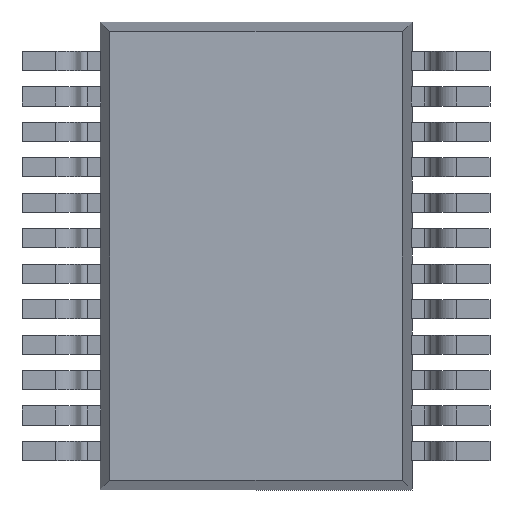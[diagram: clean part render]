
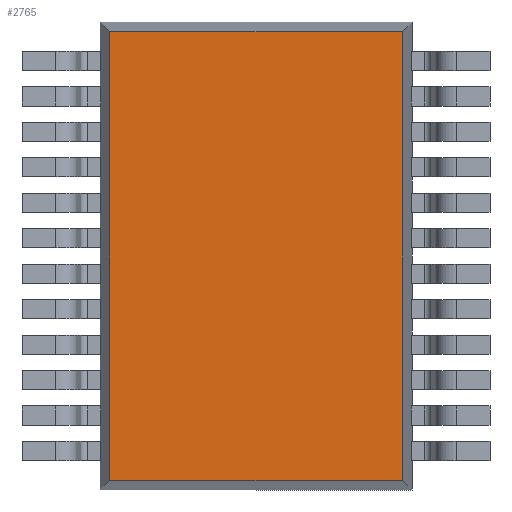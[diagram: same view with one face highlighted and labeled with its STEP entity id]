
A CAD part, front view. The second image highlights one B-rep face of the part: STEP entity #2765.
In plain terms, the highlighted planar face has unit normal (0, -1, 0).
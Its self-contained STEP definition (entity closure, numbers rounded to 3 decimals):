
#583 = EDGE_LOOP ( 'NONE', ( #14447, #14448, #14421, #14422 ) ) ;
#1364 = FACE_OUTER_BOUND ( 'NONE', #583, .T. ) ;
#2765 = ADVANCED_FACE ( 'NONE', ( #1364 ), #12085, .F. ) ;
#2966 = EDGE_CURVE ( 'NONE', #13904, #13893, #7588, .T. ) ;
#2967 = EDGE_CURVE ( 'NONE', #13890, #13891, #7587, .T. ) ;
#3324 = EDGE_CURVE ( 'NONE', #13893, #13890, #8157, .T. ) ;
#4475 = AXIS2_PLACEMENT_3D ( 'NONE', #12086, #12091, #12092 ) ;
#7291 = CARTESIAN_POINT ( 'NONE',  ( 2.2, 0.1, 3.159 ) ) ;
#7296 = CARTESIAN_POINT ( 'NONE',  ( 2.2, 0.1, -3.159 ) ) ;
#7298 = DIRECTION ( 'NONE',  ( 1., 0., 0. ) ) ;
#7299 = DIRECTION ( 'NONE',  ( -1., 0., 0. ) ) ;
#7587 = LINE ( 'NONE', #7291, #7593 ) ;
#7588 = LINE ( 'NONE', #7296, #7591 ) ;
#7591 = VECTOR ( 'NONE', #7298, 1000. ) ;
#7593 = VECTOR ( 'NONE', #7299, 1000. ) ;
#8157 = LINE ( 'NONE', #9045, #8165 ) ;
#8165 = VECTOR ( 'NONE', #9052, 1000. ) ;
#9045 = CARTESIAN_POINT ( 'NONE',  ( 2.059, 0.1, 3.3 ) ) ;
#9052 = DIRECTION ( 'NONE',  ( 0., 0., 1. ) ) ;
#9948 = CARTESIAN_POINT ( 'NONE',  ( 2.059, 0.1, 3.159 ) ) ;
#9949 = CARTESIAN_POINT ( 'NONE',  ( -2.059, 0.1, 3.159 ) ) ;
#9951 = CARTESIAN_POINT ( 'NONE',  ( 2.059, 0.1, -3.159 ) ) ;
#9962 = CARTESIAN_POINT ( 'NONE',  ( -2.059, 0.1, -3.159 ) ) ;
#10496 = CARTESIAN_POINT ( 'NONE',  ( -2.059, 0.1, 3.3 ) ) ;
#10497 = DIRECTION ( 'NONE',  ( 0., 0., -1. ) ) ;
#10850 = LINE ( 'NONE', #10496, #10853 ) ;
#10853 = VECTOR ( 'NONE', #10497, 1000. ) ;
#12085 = PLANE ( 'NONE',  #4475 ) ;
#12086 = CARTESIAN_POINT ( 'NONE',  ( 0., 0.1, 0. ) ) ;
#12091 = DIRECTION ( 'NONE',  ( 0., 1., 0. ) ) ;
#12092 = DIRECTION ( 'NONE',  ( 0., 0., 1. ) ) ;
#13890 = VERTEX_POINT ( 'NONE', #9948 ) ;
#13891 = VERTEX_POINT ( 'NONE', #9949 ) ;
#13893 = VERTEX_POINT ( 'NONE', #9951 ) ;
#13904 = VERTEX_POINT ( 'NONE', #9962 ) ;
#14421 = ORIENTED_EDGE ( 'NONE', *, *, #3324, .T. ) ;
#14422 = ORIENTED_EDGE ( 'NONE', *, *, #2967, .T. ) ;
#14447 = ORIENTED_EDGE ( 'NONE', *, *, #15419, .T. ) ;
#14448 = ORIENTED_EDGE ( 'NONE', *, *, #2966, .T. ) ;
#15419 = EDGE_CURVE ( 'NONE', #13891, #13904, #10850, .T. ) ;
